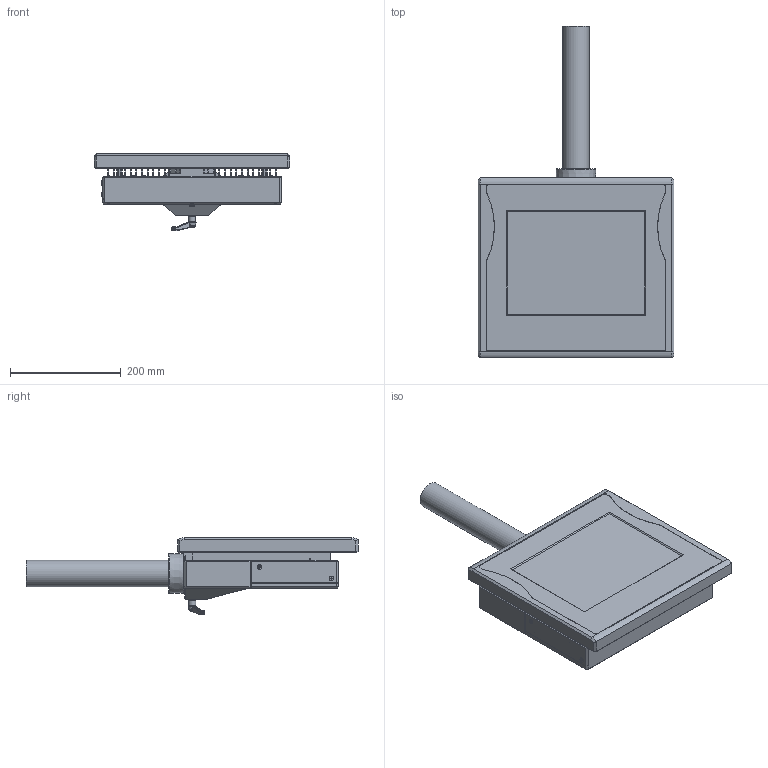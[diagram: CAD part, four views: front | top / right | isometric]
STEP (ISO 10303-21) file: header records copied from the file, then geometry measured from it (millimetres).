
FILE_DESCRIPTION((''),'2;1');
FILE_NAME('X:\0-inventor\0-3d-Teile\PC-Compo\solids\CP72\CP7201-0000.stp','2011-02-10T08:59:06',('ChristianKreuzer'),(''),'Autodesk Inventor 2011','Autodesk Inventor 2011','');
FILE_SCHEMA(('AUTOMOTIVE_DESIGN { 1 0 10303 214 1 1 1 1 }'));
Length unit declared in the file: millimetre
Products named in the file (1): Bauteil1
Bounding box: 353.8 x 600.4 x 139.3 mm (x, y, z)
Volume: 7032993.6 mm3; surface area: 930697.4 mm2
Topology: 77 solids, 77 shells, 3118 faces, 7998 edges, 5190 vertices
Faces by surface type: plane 1781, cylinder 778, cone 397, torus 145, sphere 16, bspline 1
Full cylindrical faces by diameter (mm): 1 x20, 1.5 x57, 2.013 x1, 2.256 x2, 2.459 x2, 2.5 x2, 2.8 x2, 3 x8, 3.242 x18, 3.3 x1, 3.571 x8, 3.621 x4, 4 x30, 4.2 x4, 4.3 x3, 4.4 x6, 4.5 x12, 4.6 x7, 5 x8, 6 x5, 6.2 x4, 6.5 x1, 6.6 x4, 7 x14, 7.5 x4, 7.6 x10, 8 x3, 8.4 x9, 8.5 x2, 9 x6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
Entity records: 97471 total; most frequent: CARTESIAN_POINT 21399, DIRECTION 15070, ORIENTED_EDGE 14480, EDGE_CURVE 7240, AXIS2_PLACEMENT_3D 5528, VERTEX_POINT 4972, EDGE_LOOP 4096, VECTOR 4014
